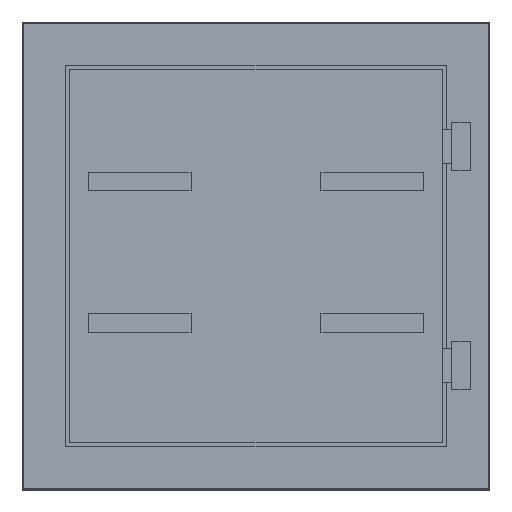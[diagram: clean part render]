
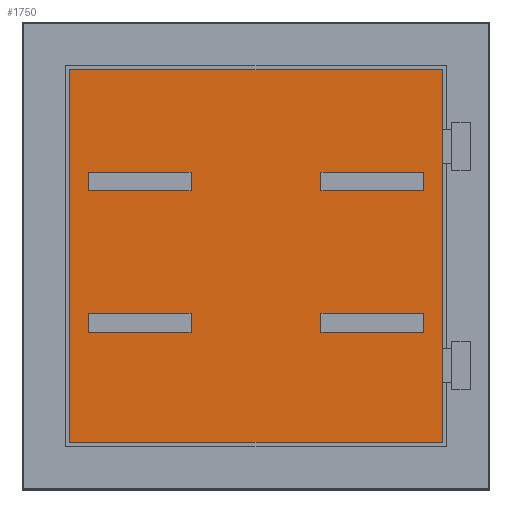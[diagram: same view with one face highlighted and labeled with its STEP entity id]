
A CAD part, top view. The second image highlights one B-rep face of the part: STEP entity #1750.
In plain terms, the highlighted planar face has unit normal (0, 0, 1).
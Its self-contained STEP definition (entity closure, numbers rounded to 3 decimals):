
#363=DIRECTION('',(0.,-1.,0.));
#364=VECTOR('',#363,1002.);
#365=CARTESIAN_POINT('',(-501.,501.,-41.));
#366=LINE('',#365,#364);
#367=DIRECTION('',(-1.,0.,0.));
#368=VECTOR('',#367,1002.);
#369=CARTESIAN_POINT('',(501.,501.,-41.));
#370=LINE('',#369,#368);
#371=DIRECTION('',(0.,1.,0.));
#372=VECTOR('',#371,1002.);
#373=CARTESIAN_POINT('',(501.,-501.,-41.));
#374=LINE('',#373,#372);
#375=DIRECTION('',(1.,0.,0.));
#376=VECTOR('',#375,1002.);
#377=CARTESIAN_POINT('',(-501.,-501.,-41.));
#378=LINE('',#377,#376);
#379=DIRECTION('',(1.,0.,0.));
#380=VECTOR('',#379,275.);
#381=CARTESIAN_POINT('',(-450.,175.,-41.));
#382=LINE('',#381,#380);
#383=DIRECTION('',(0.,1.,0.));
#384=VECTOR('',#383,50.);
#385=CARTESIAN_POINT('',(-175.,175.,-41.));
#386=LINE('',#385,#384);
#387=DIRECTION('',(1.,0.,0.));
#388=VECTOR('',#387,275.);
#389=CARTESIAN_POINT('',(-450.,225.,-41.));
#390=LINE('',#389,#388);
#391=DIRECTION('',(0.,1.,0.));
#392=VECTOR('',#391,50.);
#393=CARTESIAN_POINT('',(-450.,175.,-41.));
#394=LINE('',#393,#392);
#395=DIRECTION('',(1.,0.,0.));
#396=VECTOR('',#395,275.);
#397=CARTESIAN_POINT('',(175.,175.,-41.));
#398=LINE('',#397,#396);
#399=DIRECTION('',(0.,1.,0.));
#400=VECTOR('',#399,50.);
#401=CARTESIAN_POINT('',(450.,175.,-41.));
#402=LINE('',#401,#400);
#403=DIRECTION('',(1.,0.,0.));
#404=VECTOR('',#403,275.);
#405=CARTESIAN_POINT('',(175.,225.,-41.));
#406=LINE('',#405,#404);
#407=DIRECTION('',(0.,1.,0.));
#408=VECTOR('',#407,50.);
#409=CARTESIAN_POINT('',(175.,175.,-41.));
#410=LINE('',#409,#408);
#411=DIRECTION('',(0.,-1.,0.));
#412=VECTOR('',#411,50.);
#413=CARTESIAN_POINT('',(175.,-155.,-41.));
#414=LINE('',#413,#412);
#415=DIRECTION('',(1.,0.,0.));
#416=VECTOR('',#415,275.);
#417=CARTESIAN_POINT('',(175.,-205.,-41.));
#418=LINE('',#417,#416);
#419=DIRECTION('',(0.,1.,0.));
#420=VECTOR('',#419,50.);
#421=CARTESIAN_POINT('',(450.,-205.,-41.));
#422=LINE('',#421,#420);
#423=DIRECTION('',(-1.,0.,0.));
#424=VECTOR('',#423,275.);
#425=CARTESIAN_POINT('',(450.,-155.,-41.));
#426=LINE('',#425,#424);
#427=DIRECTION('',(-1.,0.,0.));
#428=VECTOR('',#427,275.);
#429=CARTESIAN_POINT('',(-175.,-155.,-41.));
#430=LINE('',#429,#428);
#431=DIRECTION('',(0.,-1.,0.));
#432=VECTOR('',#431,50.);
#433=CARTESIAN_POINT('',(-450.,-155.,-41.));
#434=LINE('',#433,#432);
#435=DIRECTION('',(1.,0.,0.));
#436=VECTOR('',#435,275.);
#437=CARTESIAN_POINT('',(-450.,-205.,-41.));
#438=LINE('',#437,#436);
#439=DIRECTION('',(0.,1.,0.));
#440=VECTOR('',#439,50.);
#441=CARTESIAN_POINT('',(-175.,-205.,-41.));
#442=LINE('',#441,#440);
#991=CARTESIAN_POINT('',(-501.,501.,-41.));
#992=CARTESIAN_POINT('',(-501.,-501.,-41.));
#993=VERTEX_POINT('',#991);
#994=VERTEX_POINT('',#992);
#995=CARTESIAN_POINT('',(501.,-501.,-41.));
#996=VERTEX_POINT('',#995);
#997=CARTESIAN_POINT('',(501.,501.,-41.));
#998=VERTEX_POINT('',#997);
#1119=CARTESIAN_POINT('',(-450.,175.,-41.));
#1120=CARTESIAN_POINT('',(-175.,175.,-41.));
#1121=VERTEX_POINT('',#1119);
#1122=VERTEX_POINT('',#1120);
#1123=CARTESIAN_POINT('',(175.,175.,-41.));
#1124=CARTESIAN_POINT('',(450.,175.,-41.));
#1125=VERTEX_POINT('',#1123);
#1126=VERTEX_POINT('',#1124);
#1127=CARTESIAN_POINT('',(-450.,225.,-41.));
#1128=CARTESIAN_POINT('',(-175.,225.,-41.));
#1129=VERTEX_POINT('',#1127);
#1130=VERTEX_POINT('',#1128);
#1131=CARTESIAN_POINT('',(175.,225.,-41.));
#1132=CARTESIAN_POINT('',(450.,225.,-41.));
#1133=VERTEX_POINT('',#1131);
#1134=VERTEX_POINT('',#1132);
#1183=CARTESIAN_POINT('',(175.,-155.,-41.));
#1184=CARTESIAN_POINT('',(175.,-205.,-41.));
#1185=VERTEX_POINT('',#1183);
#1186=VERTEX_POINT('',#1184);
#1187=CARTESIAN_POINT('',(450.,-205.,-41.));
#1188=VERTEX_POINT('',#1187);
#1189=CARTESIAN_POINT('',(450.,-155.,-41.));
#1190=VERTEX_POINT('',#1189);
#1191=CARTESIAN_POINT('',(-175.,-155.,-41.));
#1192=CARTESIAN_POINT('',(-450.,-155.,-41.));
#1193=VERTEX_POINT('',#1191);
#1194=VERTEX_POINT('',#1192);
#1195=CARTESIAN_POINT('',(-450.,-205.,-41.));
#1196=VERTEX_POINT('',#1195);
#1197=CARTESIAN_POINT('',(-175.,-205.,-41.));
#1198=VERTEX_POINT('',#1197);
#1701=CARTESIAN_POINT('',(0.,0.,-41.));
#1702=DIRECTION('',(0.,0.,1.));
#1703=DIRECTION('',(1.,0.,0.));
#1704=AXIS2_PLACEMENT_3D('',#1701,#1702,#1703);
#1705=PLANE('',#1704);
#1707=ORIENTED_EDGE('',*,*,#1706,.F.);
#1709=ORIENTED_EDGE('',*,*,#1708,.F.);
#1711=ORIENTED_EDGE('',*,*,#1710,.F.);
#1713=ORIENTED_EDGE('',*,*,#1712,.F.);
#1714=EDGE_LOOP('',(#1707,#1709,#1711,#1713));
#1715=FACE_OUTER_BOUND('',#1714,.F.);
#1716=ORIENTED_EDGE('',*,*,#1469,.T.);
#1717=ORIENTED_EDGE('',*,*,#1536,.T.);
#1718=ORIENTED_EDGE('',*,*,#1601,.F.);
#1719=ORIENTED_EDGE('',*,*,#1666,.F.);
#1720=EDGE_LOOP('',(#1716,#1717,#1718,#1719));
#1721=FACE_BOUND('',#1720,.F.);
#1722=ORIENTED_EDGE('',*,*,#1492,.T.);
#1724=ORIENTED_EDGE('',*,*,#1723,.T.);
#1725=ORIENTED_EDGE('',*,*,#1623,.F.);
#1727=ORIENTED_EDGE('',*,*,#1726,.F.);
#1728=EDGE_LOOP('',(#1722,#1724,#1725,#1727));
#1729=FACE_BOUND('',#1728,.F.);
#1731=ORIENTED_EDGE('',*,*,#1730,.T.);
#1733=ORIENTED_EDGE('',*,*,#1732,.T.);
#1735=ORIENTED_EDGE('',*,*,#1734,.T.);
#1737=ORIENTED_EDGE('',*,*,#1736,.T.);
#1738=EDGE_LOOP('',(#1731,#1733,#1735,#1737));
#1739=FACE_BOUND('',#1738,.F.);
#1741=ORIENTED_EDGE('',*,*,#1740,.T.);
#1743=ORIENTED_EDGE('',*,*,#1742,.T.);
#1745=ORIENTED_EDGE('',*,*,#1744,.T.);
#1747=ORIENTED_EDGE('',*,*,#1746,.T.);
#1748=EDGE_LOOP('',(#1741,#1743,#1745,#1747));
#1749=FACE_BOUND('',#1748,.F.);
#1469=EDGE_CURVE('',#1121,#1122,#382,.T.);
#1492=EDGE_CURVE('',#1125,#1126,#398,.T.);
#1536=EDGE_CURVE('',#1122,#1130,#386,.T.);
#1601=EDGE_CURVE('',#1129,#1130,#390,.T.);
#1623=EDGE_CURVE('',#1133,#1134,#406,.T.);
#1666=EDGE_CURVE('',#1121,#1129,#394,.T.);
#1706=EDGE_CURVE('',#993,#994,#366,.T.);
#1708=EDGE_CURVE('',#998,#993,#370,.T.);
#1710=EDGE_CURVE('',#996,#998,#374,.T.);
#1712=EDGE_CURVE('',#994,#996,#378,.T.);
#1723=EDGE_CURVE('',#1126,#1134,#402,.T.);
#1726=EDGE_CURVE('',#1125,#1133,#410,.T.);
#1730=EDGE_CURVE('',#1185,#1186,#414,.T.);
#1732=EDGE_CURVE('',#1186,#1188,#418,.T.);
#1734=EDGE_CURVE('',#1188,#1190,#422,.T.);
#1736=EDGE_CURVE('',#1190,#1185,#426,.T.);
#1740=EDGE_CURVE('',#1193,#1194,#430,.T.);
#1742=EDGE_CURVE('',#1194,#1196,#434,.T.);
#1744=EDGE_CURVE('',#1196,#1198,#438,.T.);
#1746=EDGE_CURVE('',#1198,#1193,#442,.T.);
#1750=ADVANCED_FACE('',(#1715,#1721,#1729,#1739,#1749),#1705,.T.);
